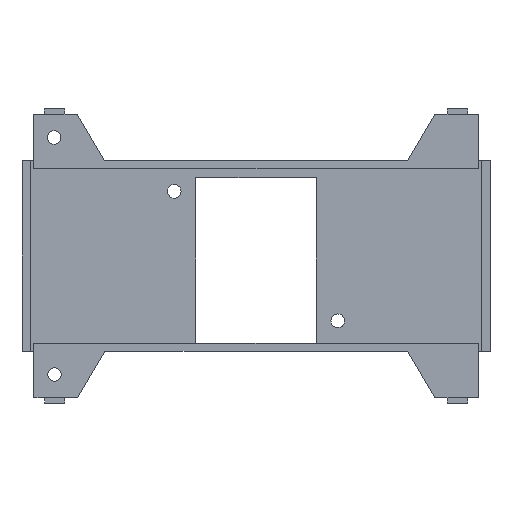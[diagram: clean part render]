
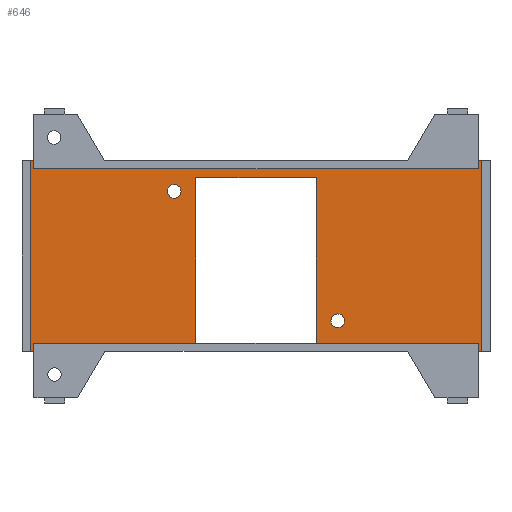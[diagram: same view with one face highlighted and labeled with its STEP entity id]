
A CAD part, top view. The second image highlights one B-rep face of the part: STEP entity #646.
In plain terms, the highlighted planar face has unit normal (0, 0, 1).
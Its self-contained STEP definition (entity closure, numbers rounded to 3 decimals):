
#219 = VERTEX_POINT('',#220);
#220 = CARTESIAN_POINT('',(13.,-9.5,1.2));
#226 = EDGE_CURVE('',#219,#219,#227,.T.);
#227 = CIRCLE('',#228,1.);
#228 = AXIS2_PLACEMENT_3D('',#229,#230,#231);
#229 = CARTESIAN_POINT('',(12.,-9.5,1.2));
#230 = DIRECTION('',(0.,0.,-1.));
#231 = DIRECTION('',(1.,0.,0.));
#244 = VERTEX_POINT('',#245);
#245 = CARTESIAN_POINT('',(-11.,9.5,1.2));
#251 = EDGE_CURVE('',#244,#244,#252,.T.);
#252 = CIRCLE('',#253,1.);
#253 = AXIS2_PLACEMENT_3D('',#254,#255,#256);
#254 = CARTESIAN_POINT('',(-12.,9.5,1.2));
#255 = DIRECTION('',(0.,0.,-1.));
#256 = DIRECTION('',(1.,0.,0.));
#269 = VERTEX_POINT('',#270);
#270 = CARTESIAN_POINT('',(8.83,11.5,1.2));
#276 = EDGE_CURVE('',#277,#269,#279,.T.);
#277 = VERTEX_POINT('',#278);
#278 = CARTESIAN_POINT('',(8.83,-12.8,1.2));
#279 = LINE('',#280,#281);
#280 = CARTESIAN_POINT('',(8.83,5.75,1.2));
#281 = VECTOR('',#282,1.);
#282 = DIRECTION('',(0.,1.,0.));
#300 = VERTEX_POINT('',#301);
#301 = CARTESIAN_POINT('',(-8.82,11.5,1.2));
#307 = EDGE_CURVE('',#269,#300,#308,.T.);
#308 = LINE('',#309,#310);
#309 = CARTESIAN_POINT('',(-4.41,11.5,1.2));
#310 = VECTOR('',#311,1.);
#311 = DIRECTION('',(-1.,0.,0.));
#324 = VERTEX_POINT('',#325);
#325 = CARTESIAN_POINT('',(-8.82,-12.8,1.2));
#331 = EDGE_CURVE('',#300,#324,#332,.T.);
#332 = LINE('',#333,#334);
#333 = CARTESIAN_POINT('',(-8.82,-6.4,1.2));
#334 = VECTOR('',#335,1.);
#335 = DIRECTION('',(0.,-1.,0.));
#396 = VERTEX_POINT('',#397);
#397 = CARTESIAN_POINT('',(-33.15,14.,1.2));
#403 = EDGE_CURVE('',#404,#396,#406,.T.);
#404 = VERTEX_POINT('',#405);
#405 = CARTESIAN_POINT('',(-32.65,14.,1.2));
#406 = LINE('',#407,#408);
#407 = CARTESIAN_POINT('',(34.35,14.,1.2));
#408 = VECTOR('',#409,1.);
#409 = DIRECTION('',(-1.,0.,0.));
#460 = VERTEX_POINT('',#461);
#461 = CARTESIAN_POINT('',(32.65,14.,1.2));
#467 = EDGE_CURVE('',#468,#460,#470,.T.);
#468 = VERTEX_POINT('',#469);
#469 = CARTESIAN_POINT('',(33.15,14.,1.2));
#470 = LINE('',#471,#472);
#471 = CARTESIAN_POINT('',(34.35,14.,1.2));
#472 = VECTOR('',#473,1.);
#473 = DIRECTION('',(-1.,0.,0.));
#516 = VERTEX_POINT('',#517);
#517 = CARTESIAN_POINT('',(33.15,-14.,1.2));
#523 = EDGE_CURVE('',#524,#516,#526,.T.);
#524 = VERTEX_POINT('',#525);
#525 = CARTESIAN_POINT('',(32.65,-14.,1.2));
#526 = LINE('',#527,#528);
#527 = CARTESIAN_POINT('',(-34.35,-14.,1.2));
#528 = VECTOR('',#529,1.);
#529 = DIRECTION('',(1.,0.,0.));
#596 = VERTEX_POINT('',#597);
#597 = CARTESIAN_POINT('',(-32.65,-14.,1.2));
#603 = EDGE_CURVE('',#604,#596,#606,.T.);
#604 = VERTEX_POINT('',#605);
#605 = CARTESIAN_POINT('',(-33.15,-14.,1.2));
#606 = LINE('',#607,#608);
#607 = CARTESIAN_POINT('',(-34.35,-14.,1.2));
#608 = VECTOR('',#609,1.);
#609 = DIRECTION('',(1.,0.,0.));
#646 = ADVANCED_FACE('',(#647,#718,#721),#724,.T.);
#647 = FACE_BOUND('',#648,.T.);
#648 = EDGE_LOOP('',(#649,#655,#656,#664,#670,#671,#672,#673,#681,#687,
    #688,#694,#695,#703,#711,#717));
#649 = ORIENTED_EDGE('',*,*,#650,.F.);
#650 = EDGE_CURVE('',#604,#396,#651,.T.);
#651 = LINE('',#652,#653);
#652 = CARTESIAN_POINT('',(-33.15,-14.,1.2));
#653 = VECTOR('',#654,1.);
#654 = DIRECTION('',(0.,1.,0.));
#655 = ORIENTED_EDGE('',*,*,#603,.T.);
#656 = ORIENTED_EDGE('',*,*,#657,.F.);
#657 = EDGE_CURVE('',#658,#596,#660,.T.);
#658 = VERTEX_POINT('',#659);
#659 = CARTESIAN_POINT('',(-32.65,-12.8,1.2));
#660 = LINE('',#661,#662);
#661 = CARTESIAN_POINT('',(-32.65,-12.8,1.2));
#662 = VECTOR('',#663,1.);
#663 = DIRECTION('',(0.,-1.,0.));
#664 = ORIENTED_EDGE('',*,*,#665,.F.);
#665 = EDGE_CURVE('',#324,#658,#666,.T.);
#666 = LINE('',#667,#668);
#667 = CARTESIAN_POINT('',(32.65,-12.8,1.2));
#668 = VECTOR('',#669,1.);
#669 = DIRECTION('',(-1.,0.,0.));
#670 = ORIENTED_EDGE('',*,*,#331,.F.);
#671 = ORIENTED_EDGE('',*,*,#307,.F.);
#672 = ORIENTED_EDGE('',*,*,#276,.F.);
#673 = ORIENTED_EDGE('',*,*,#674,.F.);
#674 = EDGE_CURVE('',#675,#277,#677,.T.);
#675 = VERTEX_POINT('',#676);
#676 = CARTESIAN_POINT('',(32.65,-12.8,1.2));
#677 = LINE('',#678,#679);
#678 = CARTESIAN_POINT('',(32.65,-12.8,1.2));
#679 = VECTOR('',#680,1.);
#680 = DIRECTION('',(-1.,0.,0.));
#681 = ORIENTED_EDGE('',*,*,#682,.F.);
#682 = EDGE_CURVE('',#524,#675,#683,.T.);
#683 = LINE('',#684,#685);
#684 = CARTESIAN_POINT('',(32.65,-14.,1.2));
#685 = VECTOR('',#686,1.);
#686 = DIRECTION('',(0.,1.,0.));
#687 = ORIENTED_EDGE('',*,*,#523,.T.);
#688 = ORIENTED_EDGE('',*,*,#689,.F.);
#689 = EDGE_CURVE('',#468,#516,#690,.T.);
#690 = LINE('',#691,#692);
#691 = CARTESIAN_POINT('',(33.15,14.,1.2));
#692 = VECTOR('',#693,1.);
#693 = DIRECTION('',(0.,-1.,0.));
#694 = ORIENTED_EDGE('',*,*,#467,.T.);
#695 = ORIENTED_EDGE('',*,*,#696,.F.);
#696 = EDGE_CURVE('',#697,#460,#699,.T.);
#697 = VERTEX_POINT('',#698);
#698 = CARTESIAN_POINT('',(32.65,12.8,1.2));
#699 = LINE('',#700,#701);
#700 = CARTESIAN_POINT('',(32.65,12.8,1.2));
#701 = VECTOR('',#702,1.);
#702 = DIRECTION('',(0.,1.,0.));
#703 = ORIENTED_EDGE('',*,*,#704,.F.);
#704 = EDGE_CURVE('',#705,#697,#707,.T.);
#705 = VERTEX_POINT('',#706);
#706 = CARTESIAN_POINT('',(-32.65,12.8,1.2));
#707 = LINE('',#708,#709);
#708 = CARTESIAN_POINT('',(-32.65,12.8,1.2));
#709 = VECTOR('',#710,1.);
#710 = DIRECTION('',(1.,0.,0.));
#711 = ORIENTED_EDGE('',*,*,#712,.F.);
#712 = EDGE_CURVE('',#404,#705,#713,.T.);
#713 = LINE('',#714,#715);
#714 = CARTESIAN_POINT('',(-32.65,14.,1.2));
#715 = VECTOR('',#716,1.);
#716 = DIRECTION('',(0.,-1.,0.));
#717 = ORIENTED_EDGE('',*,*,#403,.T.);
#718 = FACE_BOUND('',#719,.T.);
#719 = EDGE_LOOP('',(#720));
#720 = ORIENTED_EDGE('',*,*,#226,.T.);
#721 = FACE_BOUND('',#722,.T.);
#722 = EDGE_LOOP('',(#723));
#723 = ORIENTED_EDGE('',*,*,#251,.T.);
#724 = PLANE('',#725);
#725 = AXIS2_PLACEMENT_3D('',#726,#727,#728);
#726 = CARTESIAN_POINT('',(0.,0.,1.2));
#727 = DIRECTION('',(0.,0.,1.));
#728 = DIRECTION('',(1.,0.,0.));
